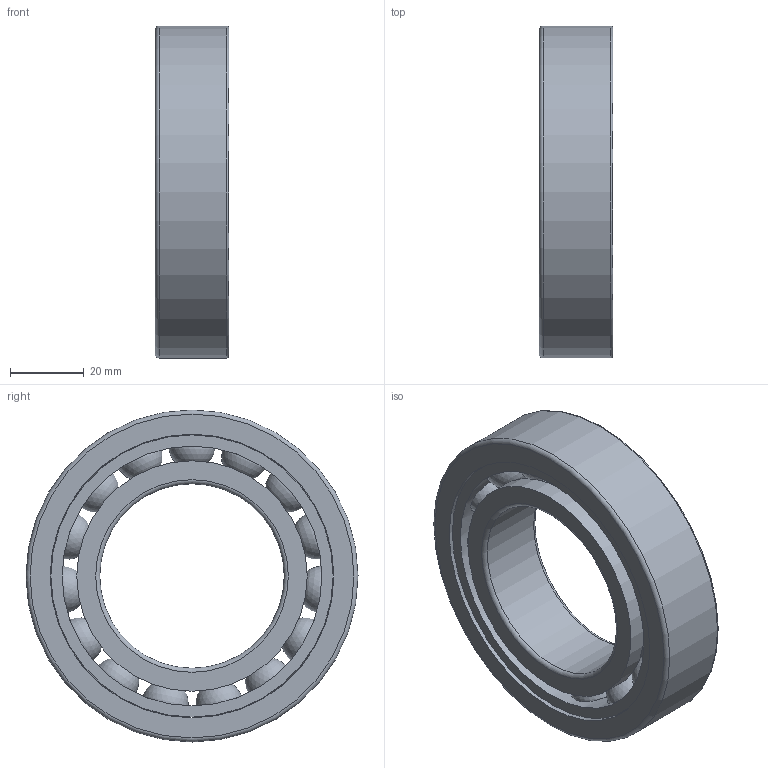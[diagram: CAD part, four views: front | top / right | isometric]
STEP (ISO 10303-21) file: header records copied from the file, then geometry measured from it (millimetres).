
FILE_DESCRIPTION(/* description */ (''),/* implementation_level */ '2;1');
FILE_NAME(/* name */ 'S_6210_TA.step',/* time_stamp */ '2013-03-06T14:49:27+01:00',/* author */ ('Marian'),/* organization */ ('GMN'),/* preprocessor_version */ 'ST-DEVELOPER v11',/* originating_system */ 'SIEMENS UGS NX 6.0',/* authorisation */ '');
FILE_SCHEMA (('CONFIG_CONTROL_DESIGN'));
Length unit declared in the file: millimetre
Products named in the file (1): S_6210_TA
Bounding box: 20 x 90 x 90 mm (x, y, z)
Volume: 65191.8 mm3; surface area: 38069.2 mm2
Topology: 18 solids, 18 shells, 50 faces, 124 edges, 80 vertices
Faces by surface type: cylinder 22, sphere 15, torus 6, plane 6, cone 1
Full cylindrical faces by diameter (mm): 12.9 x15, 50 x1, 62.45 x2, 70.41 x1, 76.5 x1, 76.9 x1, 90 x1
Entity records: 1608 total; most frequent: CARTESIAN_POINT 676, DIRECTION 142, FACE_BOUND 115, EDGE_LOOP 100, ORIENTED_EDGE 100, AXIS2_PLACEMENT_3D 71, VERTEX_POINT 65, EDGE_CURVE 50
